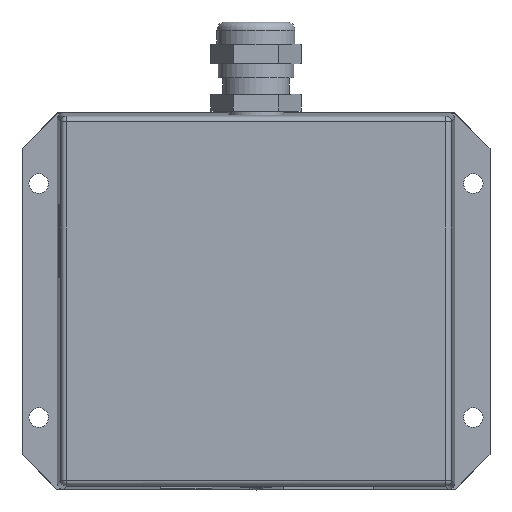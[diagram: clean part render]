
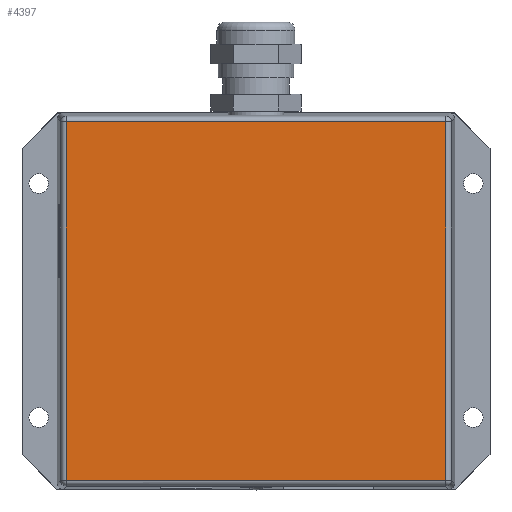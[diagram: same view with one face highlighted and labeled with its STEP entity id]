
A CAD part, front view. The second image highlights one B-rep face of the part: STEP entity #4397.
In plain terms, the highlighted planar face has unit normal (0, -1, 0).
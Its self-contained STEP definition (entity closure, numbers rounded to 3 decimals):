
#2637=DIRECTION('',(1.,0.,0.));
#2638=VECTOR('',#2637,68.17);
#2639=CARTESIAN_POINT('',(-34.085,-6.,-31.285));
#2640=LINE('',#2639,#2638);
#2660=DIRECTION('',(0.,0.,1.));
#2661=VECTOR('',#2660,64.369);
#2662=CARTESIAN_POINT('',(34.085,-6.,-31.285));
#2663=LINE('',#2662,#2661);
#2692=DIRECTION('',(-1.,0.,0.));
#2693=VECTOR('',#2692,68.17);
#2694=CARTESIAN_POINT('',(34.085,-6.,33.085));
#2695=LINE('',#2694,#2693);
#2776=DIRECTION('',(0.,0.,-1.));
#2777=VECTOR('',#2776,64.369);
#2778=CARTESIAN_POINT('',(-34.085,-6.,33.085));
#2779=LINE('',#2778,#2777);
#4023=CARTESIAN_POINT('',(-34.085,-6.,-31.285));
#4024=CARTESIAN_POINT('',(34.085,-6.,-31.285));
#4025=VERTEX_POINT('',#4023);
#4026=VERTEX_POINT('',#4024);
#4027=CARTESIAN_POINT('',(-34.085,-6.,33.085));
#4028=VERTEX_POINT('',#4027);
#4029=CARTESIAN_POINT('',(34.085,-6.,33.085));
#4030=VERTEX_POINT('',#4029);
#4382=CARTESIAN_POINT('',(-34.,-6.,-32.));
#4383=DIRECTION('',(0.,-1.,0.));
#4384=DIRECTION('',(1.,0.,0.));
#4385=AXIS2_PLACEMENT_3D('',#4382,#4383,#4384);
#4386=PLANE('',#4385);
#4388=ORIENTED_EDGE('',*,*,#4387,.F.);
#4390=ORIENTED_EDGE('',*,*,#4389,.F.);
#4392=ORIENTED_EDGE('',*,*,#4391,.F.);
#4394=ORIENTED_EDGE('',*,*,#4393,.F.);
#4395=EDGE_LOOP('',(#4388,#4390,#4392,#4394));
#4396=FACE_OUTER_BOUND('',#4395,.F.);
#4397=ADVANCED_FACE('',(#4396),#4386,.T.);
#4387=EDGE_CURVE('',#4025,#4026,#2640,.T.);
#4389=EDGE_CURVE('',#4028,#4025,#2779,.T.);
#4391=EDGE_CURVE('',#4030,#4028,#2695,.T.);
#4393=EDGE_CURVE('',#4026,#4030,#2663,.T.);
